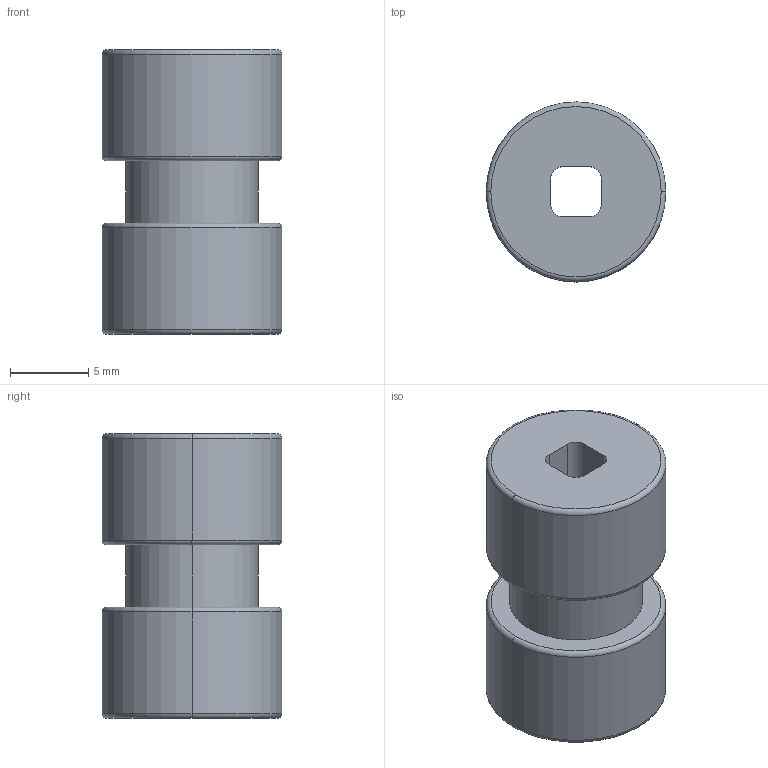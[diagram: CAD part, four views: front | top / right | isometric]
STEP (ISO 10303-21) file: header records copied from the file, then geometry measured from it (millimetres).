
FILE_DESCRIPTION((''),'2;1');
FILE_NAME('UP-PULLY','2021-03-24T',('Saeed'),(''),'PRO/ENGINEER BY PARAMETRIC TECHNOLOGY CORPORATION, 2012130','PRO/ENGINEER BY PARAMETRIC TECHNOLOGY CORPORATION, 2012130','');
FILE_SCHEMA(('CONFIG_CONTROL_DESIGN'));
Length unit declared in the file: millimetre
Products named in the file (1): UP-PULLY
Bounding box: 11.5 x 11.5 x 18.2 mm (x, y, z)
Volume: 1261.5 mm3; surface area: 1193.3 mm2
Topology: 1 solids, 1 shells, 31 faces, 68 edges, 42 vertices
Faces by surface type: cylinder 12, torus 10, plane 9
Entity records: 908 total; most frequent: DIRECTION 174, CARTESIAN_POINT 141, ORIENTED_EDGE 136, AXIS2_PLACEMENT_3D 75, EDGE_CURVE 68, CIRCLE 44, VERTEX_POINT 42, EDGE_LOOP 36
